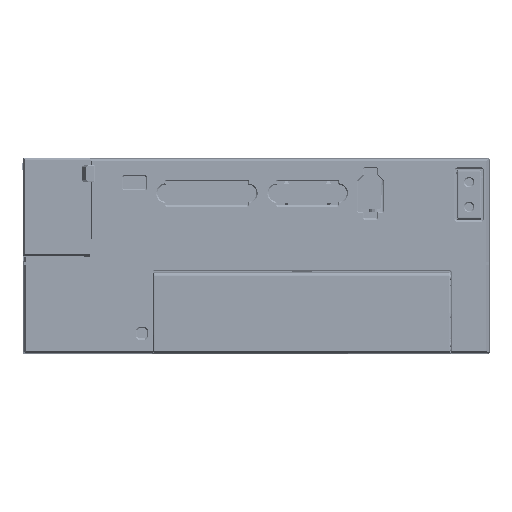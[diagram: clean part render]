
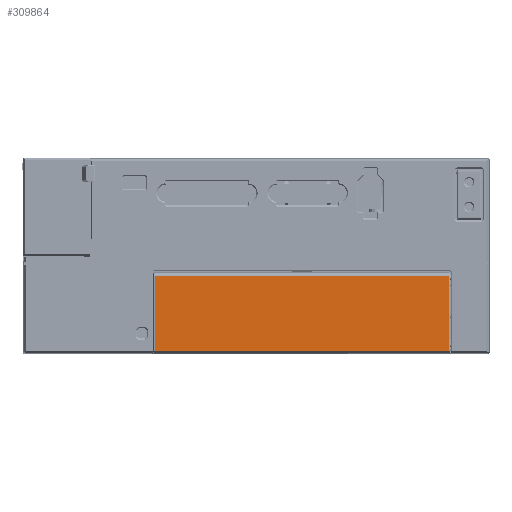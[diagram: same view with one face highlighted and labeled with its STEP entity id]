
A CAD part, front view. The second image highlights one B-rep face of the part: STEP entity #309864.
In plain terms, the highlighted planar face has unit normal (0, -1, 0) as drawn and (0, 0, -1) by its records, which use the part's own axes.
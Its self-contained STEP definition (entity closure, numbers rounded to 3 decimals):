
#307942=DIRECTION('',(1.,0.,0.));
#307943=VECTOR('',#307942,30.342);
#307944=CARTESIAN_POINT('',(-15.192,-59.9,-1.));
#307945=LINE('',#307944,#307943);
#307949=DIRECTION('',(-1.,0.,0.));
#307950=VECTOR('',#307949,30.342);
#307951=CARTESIAN_POINT('',(15.15,59.9,-1.));
#307952=LINE('',#307951,#307950);
#307956=DIRECTION('',(0.,-1.,0.));
#307957=VECTOR('',#307956,119.8);
#307958=CARTESIAN_POINT('',(-15.192,59.9,-1.));
#307959=LINE('',#307958,#307957);
#308753=DIRECTION('',(0.,-1.,0.));
#308754=VECTOR('',#308753,119.8);
#308755=CARTESIAN_POINT('',(15.15,59.9,-1.));
#308756=LINE('',#308755,#308754);
#309728=CARTESIAN_POINT('',(15.15,-59.9,-1.));
#309729=VERTEX_POINT('',#309728);
#309732=CARTESIAN_POINT('',(-15.192,-59.9,-1.));
#309733=VERTEX_POINT('',#309732);
#309754=CARTESIAN_POINT('',(15.15,59.9,-1.));
#309755=VERTEX_POINT('',#309754);
#309756=CARTESIAN_POINT('',(-15.192,59.9,-1.));
#309757=VERTEX_POINT('',#309756);
#309849=CARTESIAN_POINT('',(0.,0.,-1.));
#309850=DIRECTION('',(0.,0.,1.));
#309851=DIRECTION('',(1.,0.,0.));
#309852=AXIS2_PLACEMENT_3D('',#309849,#309850,#309851);
#309853=PLANE('',#309852);
#309855=ORIENTED_EDGE('',*,*,#309854,.T.);
#309857=ORIENTED_EDGE('',*,*,#309856,.F.);
#309859=ORIENTED_EDGE('',*,*,#309858,.T.);
#309861=ORIENTED_EDGE('',*,*,#309860,.T.);
#309862=EDGE_LOOP('',(#309855,#309857,#309859,#309861));
#309863=FACE_OUTER_BOUND('',#309862,.F.);
#309864=ADVANCED_FACE('',(#309863),#309853,.F.);
#309854=EDGE_CURVE('',#309733,#309729,#307945,.T.);
#309856=EDGE_CURVE('',#309755,#309729,#308756,.T.);
#309858=EDGE_CURVE('',#309755,#309757,#307952,.T.);
#309860=EDGE_CURVE('',#309757,#309733,#307959,.T.);
